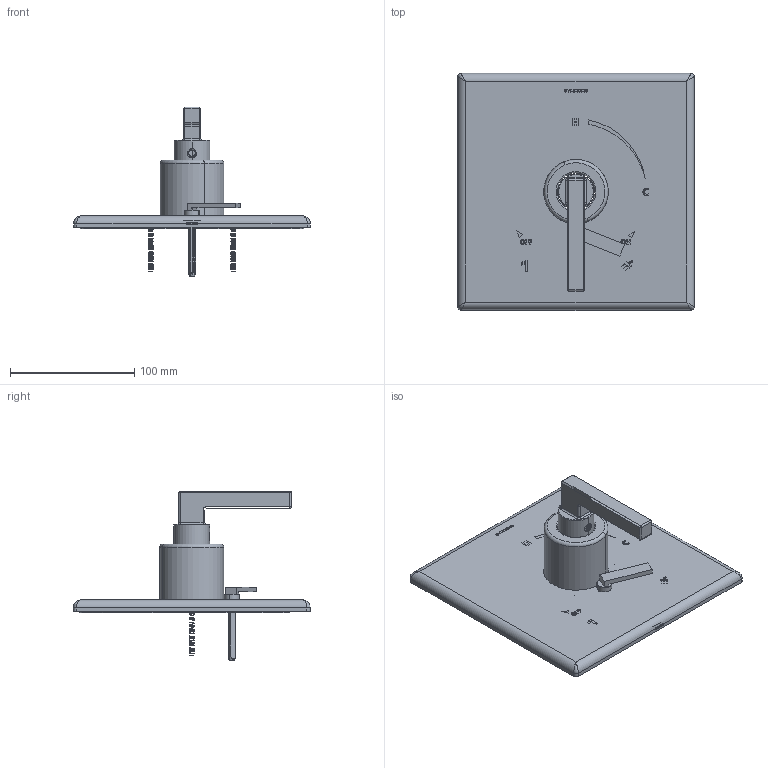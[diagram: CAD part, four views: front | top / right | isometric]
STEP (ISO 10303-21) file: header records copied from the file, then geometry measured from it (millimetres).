
FILE_DESCRIPTION (( 'STEP AP214' ), '1' );
FILE_NAME ('S3690TRM.STEP', '2025-01-15T12:00:42', ( '' ), ( '' ), 'SwSTEP 2.0', 'SolidWorks 2023', '' );
FILE_SCHEMA (( 'AUTOMOTIVE_DESIGN' ));
Length unit declared in the file: inch
Products named in the file (1): S3690TRM
Bounding box: 190.5 x 190.93 x 136.73 mm (x, y, z)
Surface area: 149350.4 mm2 (no closed solid volume)
Topology: 0 solids, 69 shells, 626 faces, 2092 edges, 1501 vertices
Faces by surface type: cylinder 265, plane 249, cone 82, torus 15, bspline 13, sphere 2
Entity records: 27041 total; most frequent: CARTESIAN_POINT 9206, DIRECTION 3676, ORIENTED_EDGE 3314, EDGE_CURVE 2082, VERTEX_POINT 1501, AXIS2_PLACEMENT_3D 1276, LINE 1124, VECTOR 1124
